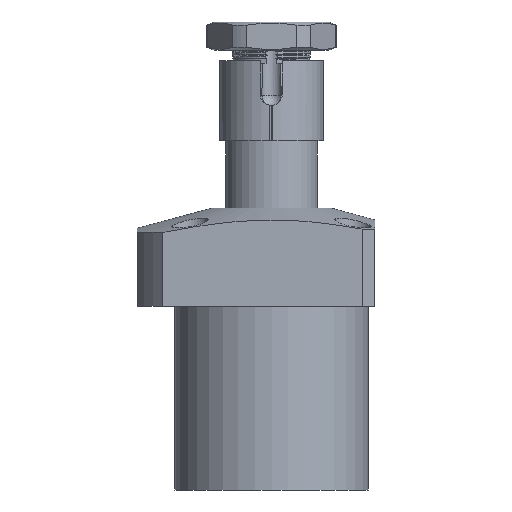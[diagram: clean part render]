
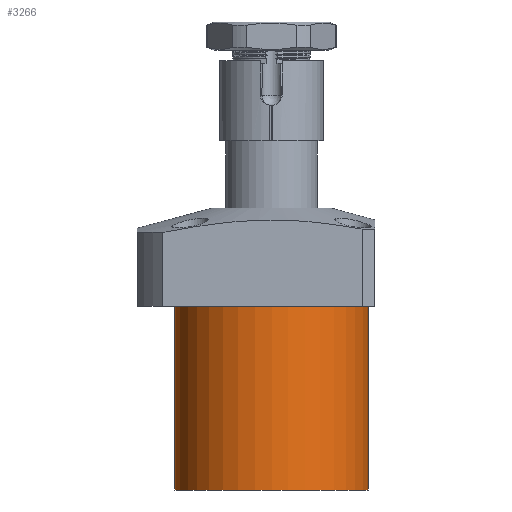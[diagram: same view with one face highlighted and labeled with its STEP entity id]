
A CAD part, front view. The second image highlights one B-rep face of the part: STEP entity #3266.
In plain terms, the highlighted cylindrical face has radius 37.5 mm (diameter 75 mm), a partial arc.
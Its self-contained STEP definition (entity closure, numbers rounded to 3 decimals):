
#45 = VERTEX_POINT('',#46);
#46 = CARTESIAN_POINT('',(37.5,0.,-71.));
#47 = VERTEX_POINT('',#48);
#48 = CARTESIAN_POINT('',(-37.5,0.,-71.));
#56 = CYLINDRICAL_SURFACE('',#57,37.5);
#57 = AXIS2_PLACEMENT_3D('',#58,#59,#60);
#58 = CARTESIAN_POINT('',(0.,0.,-71.));
#59 = DIRECTION('',(0.,0.,1.));
#60 = DIRECTION('',(1.,0.,-0.));
#68 = PLANE('',#69);
#69 = AXIS2_PLACEMENT_3D('',#70,#71,#72);
#70 = CARTESIAN_POINT('',(37.5,0.,-71.));
#71 = DIRECTION('',(0.,0.,-1.));
#72 = DIRECTION('',(-1.,0.,-0.));
#84 = EDGE_CURVE('',#47,#85,#87,.T.);
#85 = VERTEX_POINT('',#86);
#86 = CARTESIAN_POINT('',(-37.5,0.,0.));
#87 = SURFACE_CURVE('',#88,(#92,#99),.PCURVE_S1.);
#88 = LINE('',#89,#90);
#89 = CARTESIAN_POINT('',(-37.5,0.,-71.));
#90 = VECTOR('',#91,1.);
#91 = DIRECTION('',(0.,0.,1.));
#92 = PCURVE('',#56,#93);
#93 = DEFINITIONAL_REPRESENTATION('',(#94),#98);
#94 = LINE('',#95,#96);
#95 = CARTESIAN_POINT('',(3.142,0.));
#96 = VECTOR('',#97,1.);
#97 = DIRECTION('',(0.,1.));
#98 = ( GEOMETRIC_REPRESENTATION_CONTEXT(2) 
PARAMETRIC_REPRESENTATION_CONTEXT() REPRESENTATION_CONTEXT('2D SPACE',''
  ) );
#99 = PCURVE('',#100,#105);
#100 = CYLINDRICAL_SURFACE('',#101,37.5);
#101 = AXIS2_PLACEMENT_3D('',#102,#103,#104);
#102 = CARTESIAN_POINT('',(0.,0.,-71.));
#103 = DIRECTION('',(0.,0.,1.));
#104 = DIRECTION('',(1.,0.,-0.));
#105 = DEFINITIONAL_REPRESENTATION('',(#106),#110);
#106 = LINE('',#107,#108);
#107 = CARTESIAN_POINT('',(3.142,0.));
#108 = VECTOR('',#109,1.);
#109 = DIRECTION('',(0.,1.));
#110 = ( GEOMETRIC_REPRESENTATION_CONTEXT(2) 
PARAMETRIC_REPRESENTATION_CONTEXT() REPRESENTATION_CONTEXT('2D SPACE',''
  ) );
#113 = VERTEX_POINT('',#114);
#114 = CARTESIAN_POINT('',(37.5,0.,0.));
#129 = PLANE('',#130);
#130 = AXIS2_PLACEMENT_3D('',#131,#132,#133);
#131 = CARTESIAN_POINT('',(0.,0.,0.));
#132 = DIRECTION('',(0.,-0.,1.));
#133 = DIRECTION('',(1.,0.,0.));
#145 = EDGE_CURVE('',#45,#113,#146,.T.);
#146 = SURFACE_CURVE('',#147,(#151,#158),.PCURVE_S1.);
#147 = LINE('',#148,#149);
#148 = CARTESIAN_POINT('',(37.5,0.,-71.));
#149 = VECTOR('',#150,1.);
#150 = DIRECTION('',(0.,0.,1.));
#151 = PCURVE('',#56,#152);
#152 = DEFINITIONAL_REPRESENTATION('',(#153),#157);
#153 = LINE('',#154,#155);
#154 = CARTESIAN_POINT('',(0.,0.));
#155 = VECTOR('',#156,1.);
#156 = DIRECTION('',(0.,1.));
#157 = ( GEOMETRIC_REPRESENTATION_CONTEXT(2) 
PARAMETRIC_REPRESENTATION_CONTEXT() REPRESENTATION_CONTEXT('2D SPACE',''
  ) );
#158 = PCURVE('',#100,#159);
#159 = DEFINITIONAL_REPRESENTATION('',(#160),#164);
#160 = LINE('',#161,#162);
#161 = CARTESIAN_POINT('',(6.283,0.));
#162 = VECTOR('',#163,1.);
#163 = DIRECTION('',(0.,1.));
#164 = ( GEOMETRIC_REPRESENTATION_CONTEXT(2) 
PARAMETRIC_REPRESENTATION_CONTEXT() REPRESENTATION_CONTEXT('2D SPACE',''
  ) );
#3266 = ADVANCED_FACE('',(#3267),#100,.T.);
#3267 = FACE_BOUND('',#3268,.T.);
#3268 = EDGE_LOOP('',(#3269,#3270,#3296,#3297));
#3269 = ORIENTED_EDGE('',*,*,#84,.F.);
#3270 = ORIENTED_EDGE('',*,*,#3271,.T.);
#3271 = EDGE_CURVE('',#47,#45,#3272,.T.);
#3272 = SURFACE_CURVE('',#3273,(#3278,#3285),.PCURVE_S1.);
#3273 = CIRCLE('',#3274,37.5);
#3274 = AXIS2_PLACEMENT_3D('',#3275,#3276,#3277);
#3275 = CARTESIAN_POINT('',(0.,0.,-71.));
#3276 = DIRECTION('',(0.,0.,1.));
#3277 = DIRECTION('',(1.,0.,-0.));
#3278 = PCURVE('',#100,#3279);
#3279 = DEFINITIONAL_REPRESENTATION('',(#3280),#3284);
#3280 = LINE('',#3281,#3282);
#3281 = CARTESIAN_POINT('',(0.,0.));
#3282 = VECTOR('',#3283,1.);
#3283 = DIRECTION('',(1.,0.));
#3284 = ( GEOMETRIC_REPRESENTATION_CONTEXT(2) 
PARAMETRIC_REPRESENTATION_CONTEXT() REPRESENTATION_CONTEXT('2D SPACE',''
  ) );
#3285 = PCURVE('',#68,#3286);
#3286 = DEFINITIONAL_REPRESENTATION('',(#3287),#3295);
#3287 = ( BOUNDED_CURVE() B_SPLINE_CURVE(2,(#3288,#3289,#3290,#3291,
#3292,#3293,#3294),.UNSPECIFIED.,.T.,.F.) B_SPLINE_CURVE_WITH_KNOTS((1,2
    ,2,2,2,1),(-2.094,0.,2.094,4.189,
6.283,8.378),.UNSPECIFIED.) CURVE() 
GEOMETRIC_REPRESENTATION_ITEM() RATIONAL_B_SPLINE_CURVE((1.,0.5,1.,0.5,
1.,0.5,1.)) REPRESENTATION_ITEM('') );
#3288 = CARTESIAN_POINT('',(0.,0.));
#3289 = CARTESIAN_POINT('',(0.,64.952));
#3290 = CARTESIAN_POINT('',(56.25,32.476));
#3291 = CARTESIAN_POINT('',(112.5,0.));
#3292 = CARTESIAN_POINT('',(56.25,-32.476));
#3293 = CARTESIAN_POINT('',(0.,-64.952));
#3294 = CARTESIAN_POINT('',(0.,0.));
#3295 = ( GEOMETRIC_REPRESENTATION_CONTEXT(2) 
PARAMETRIC_REPRESENTATION_CONTEXT() REPRESENTATION_CONTEXT('2D SPACE',''
  ) );
#3296 = ORIENTED_EDGE('',*,*,#145,.T.);
#3297 = ORIENTED_EDGE('',*,*,#3298,.T.);
#3298 = EDGE_CURVE('',#113,#85,#3299,.T.);
#3299 = SURFACE_CURVE('',#3300,(#3305,#3312),.PCURVE_S1.);
#3300 = CIRCLE('',#3301,37.5);
#3301 = AXIS2_PLACEMENT_3D('',#3302,#3303,#3304);
#3302 = CARTESIAN_POINT('',(0.,0.,0.));
#3303 = DIRECTION('',(0.,0.,-1.));
#3304 = DIRECTION('',(1.,0.,0.));
#3305 = PCURVE('',#100,#3306);
#3306 = DEFINITIONAL_REPRESENTATION('',(#3307),#3311);
#3307 = LINE('',#3308,#3309);
#3308 = CARTESIAN_POINT('',(6.283,71.));
#3309 = VECTOR('',#3310,1.);
#3310 = DIRECTION('',(-1.,0.));
#3311 = ( GEOMETRIC_REPRESENTATION_CONTEXT(2) 
PARAMETRIC_REPRESENTATION_CONTEXT() REPRESENTATION_CONTEXT('2D SPACE',''
  ) );
#3312 = PCURVE('',#129,#3313);
#3313 = DEFINITIONAL_REPRESENTATION('',(#3314),#3322);
#3314 = ( BOUNDED_CURVE() B_SPLINE_CURVE(2,(#3315,#3316,#3317,#3318,
#3319,#3320,#3321),.UNSPECIFIED.,.T.,.F.) B_SPLINE_CURVE_WITH_KNOTS((1,2
    ,2,2,2,1),(-2.094,0.,2.094,4.189,
6.283,8.378),.UNSPECIFIED.) CURVE() 
GEOMETRIC_REPRESENTATION_ITEM() RATIONAL_B_SPLINE_CURVE((1.,0.5,1.,0.5,
1.,0.5,1.)) REPRESENTATION_ITEM('') );
#3315 = CARTESIAN_POINT('',(37.5,0.));
#3316 = CARTESIAN_POINT('',(37.5,-64.952));
#3317 = CARTESIAN_POINT('',(-18.75,-32.476));
#3318 = CARTESIAN_POINT('',(-75.,0.));
#3319 = CARTESIAN_POINT('',(-18.75,32.476));
#3320 = CARTESIAN_POINT('',(37.5,64.952));
#3321 = CARTESIAN_POINT('',(37.5,0.));
#3322 = ( GEOMETRIC_REPRESENTATION_CONTEXT(2) 
PARAMETRIC_REPRESENTATION_CONTEXT() REPRESENTATION_CONTEXT('2D SPACE',''
  ) );
